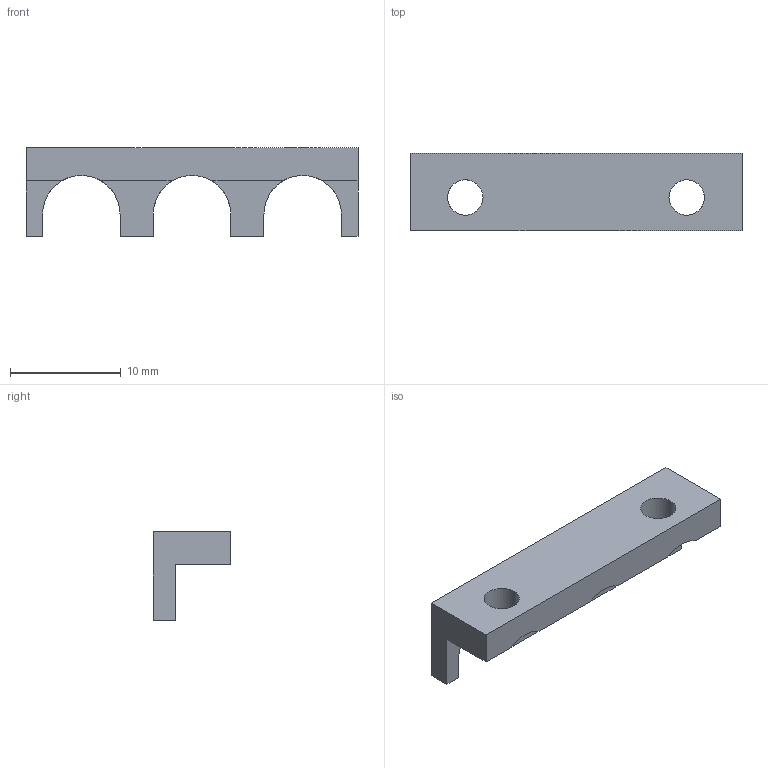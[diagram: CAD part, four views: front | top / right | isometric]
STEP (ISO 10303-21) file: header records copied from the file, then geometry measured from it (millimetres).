
FILE_DESCRIPTION (( 'STEP AP203' ), '1' );
FILE_NAME ('FB-010-22BF片.STEP', '2025-03-19T03:56:34', ( 'Windows 用户' ), ( 'Organization' ), 'SwSTEP 2.0', 'SolidWorks 2020', '' );
FILE_SCHEMA (( 'CONFIG_CONTROL_DESIGN' ));
Length unit declared in the file: millimetre
Products named in the file (1): FB-010-22BFƬ
Bounding box: 30 x 7 x 8 mm (x, y, z)
Volume: 670.5 mm3; surface area: 834.7 mm2
Topology: 1 solids, 1 shells, 30 faces, 84 edges, 56 vertices
Faces by surface type: plane 23, cylinder 7
Entity records: 1145 total; most frequent: CARTESIAN_POINT 275, ORIENTED_EDGE 168, DIRECTION 158, EDGE_CURVE 84, VECTOR 64, LINE 64, VERTEX_POINT 56, AXIS2_PLACEMENT_3D 47
